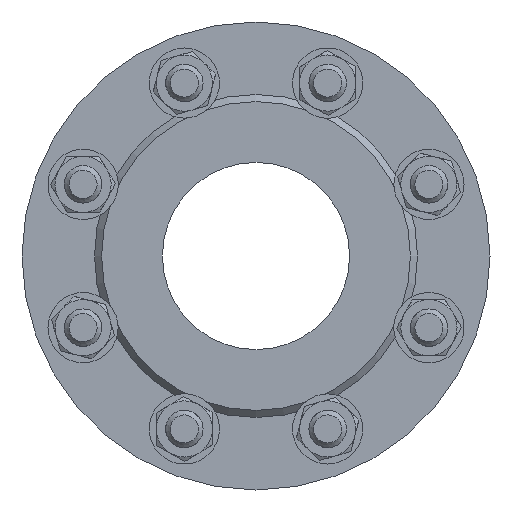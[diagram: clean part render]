
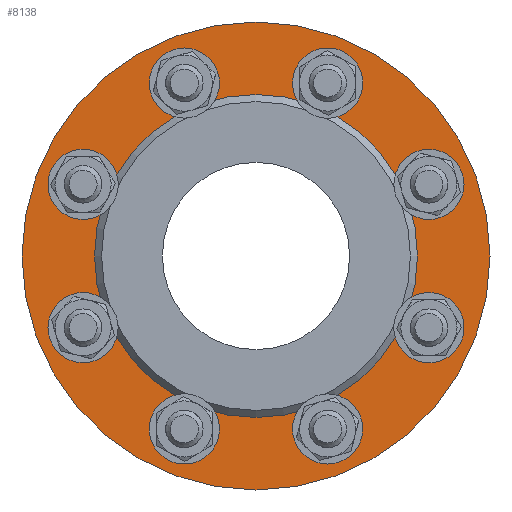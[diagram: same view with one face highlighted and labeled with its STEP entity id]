
A CAD part, left-side view. The second image highlights one B-rep face of the part: STEP entity #8138.
In plain terms, the highlighted planar face has unit normal (-1, 0, 0).
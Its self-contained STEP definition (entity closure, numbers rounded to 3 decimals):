
#44 = VERTEX_POINT ( 'NONE', #24504 ) ;
#139 = ORIENTED_EDGE ( 'NONE', *, *, #4912, .F. ) ;
#283 = CIRCLE ( 'NONE', #14516, 69. ) ;
#415 = FACE_BOUND ( 'NONE', #18114, .T. ) ;
#731 = ORIENTED_EDGE ( 'NONE', *, *, #898, .F. ) ;
#898 = EDGE_CURVE ( 'NONE', #24243, #24243, #5013, .T. ) ;
#938 = DIRECTION ( 'NONE',  ( 0., -1., 0. ) ) ;
#1148 = EDGE_LOOP ( 'NONE', ( #22468 ) ) ;
#1322 = DIRECTION ( 'NONE',  ( 0., 0., -1. ) ) ;
#1992 = AXIS2_PLACEMENT_3D ( 'NONE', #17154, #3802, #17296 ) ;
#2774 = CARTESIAN_POINT ( 'NONE',  ( -60., 30.615, 73.91 ) ) ;
#3012 = FACE_BOUND ( 'NONE', #6438, .T. ) ;
#3104 = VERTEX_POINT ( 'NONE', #18473 ) ;
#3328 = EDGE_CURVE ( 'NONE', #20354, #20354, #15756, .T. ) ;
#3461 = EDGE_CURVE ( 'NONE', #7401, #7401, #27286, .T. ) ;
#3508 = DIRECTION ( 'NONE',  ( -1., 0., 0. ) ) ;
#3576 = EDGE_LOOP ( 'NONE', ( #11178 ) ) ;
#3674 = VERTEX_POINT ( 'NONE', #16594 ) ;
#3802 = DIRECTION ( 'NONE',  ( -1., 0., 0. ) ) ;
#4476 = DIRECTION ( 'NONE',  ( 0., 0., -1. ) ) ;
#4798 = DIRECTION ( 'NONE',  ( 0., 0., -1. ) ) ;
#4912 = EDGE_CURVE ( 'NONE', #16169, #16169, #20852, .T. ) ;
#5013 = CIRCLE ( 'NONE', #6390, 8. ) ;
#5147 = FACE_BOUND ( 'NONE', #24184, .T. ) ;
#5528 = DIRECTION ( 'NONE',  ( -1., 0., 0. ) ) ;
#5651 = EDGE_CURVE ( 'NONE', #3104, #3104, #13574, .T. ) ;
#5699 = ORIENTED_EDGE ( 'NONE', *, *, #17414, .F. ) ;
#6390 = AXIS2_PLACEMENT_3D ( 'NONE', #7809, #16299, #20757 ) ;
#6438 = EDGE_LOOP ( 'NONE', ( #5699 ) ) ;
#7401 = VERTEX_POINT ( 'NONE', #27130 ) ;
#7450 = FACE_BOUND ( 'NONE', #1148, .T. ) ;
#7534 = EDGE_LOOP ( 'NONE', ( #20140 ) ) ;
#7809 = CARTESIAN_POINT ( 'NONE',  ( -60., -73.91, -30.615 ) ) ;
#8138 = ADVANCED_FACE ( 'NONE', ( #7450, #20109, #18236, #3012, #22854, #24877, #415, #9169, #5147, #18099 ), #9598, .F. ) ;
#8194 = DIRECTION ( 'NONE',  ( 0., 0., -1. ) ) ;
#8415 = CIRCLE ( 'NONE', #28195, 8. ) ;
#8521 = DIRECTION ( 'NONE',  ( -1., 0., 0. ) ) ;
#8617 = CARTESIAN_POINT ( 'NONE',  ( -60., -30.615, 73.91 ) ) ;
#9014 = EDGE_CURVE ( 'NONE', #3674, #3674, #23841, .T. ) ;
#9169 = FACE_BOUND ( 'NONE', #17276, .T. ) ;
#9258 = DIRECTION ( 'NONE',  ( 0., -1., 0. ) ) ;
#9598 = PLANE ( 'NONE',  #24266 ) ;
#10187 = AXIS2_PLACEMENT_3D ( 'NONE', #14439, #5528, #938 ) ;
#10661 = CARTESIAN_POINT ( 'NONE',  ( -60., -30.615, -73.91 ) ) ;
#10854 = EDGE_LOOP ( 'NONE', ( #15163 ) ) ;
#10962 = VERTEX_POINT ( 'NONE', #22053 ) ;
#11178 = ORIENTED_EDGE ( 'NONE', *, *, #5651, .F. ) ;
#11213 = VERTEX_POINT ( 'NONE', #13949 ) ;
#11398 = DIRECTION ( 'NONE',  ( -1., 0., 0. ) ) ;
#12304 = EDGE_CURVE ( 'NONE', #10962, #10962, #283, .T. ) ;
#13172 = EDGE_LOOP ( 'NONE', ( #139 ) ) ;
#13574 = CIRCLE ( 'NONE', #14473, 8. ) ;
#13629 = EDGE_CURVE ( 'NONE', #44, #44, #23918, .T. ) ;
#13949 = CARTESIAN_POINT ( 'NONE',  ( -60., 30.615, -81.91 ) ) ;
#14282 = CIRCLE ( 'NONE', #24405, 8. ) ;
#14439 = CARTESIAN_POINT ( 'NONE',  ( -60., 0., 0. ) ) ;
#14473 = AXIS2_PLACEMENT_3D ( 'NONE', #10661, #8521, #4476 ) ;
#14516 = AXIS2_PLACEMENT_3D ( 'NONE', #24386, #28432, #9258 ) ;
#15163 = ORIENTED_EDGE ( 'NONE', *, *, #13629, .T. ) ;
#15463 = ORIENTED_EDGE ( 'NONE', *, *, #3461, .F. ) ;
#15593 = CARTESIAN_POINT ( 'NONE',  ( -60., -73.91, -38.615 ) ) ;
#15756 = CIRCLE ( 'NONE', #1992, 8. ) ;
#15990 = VERTEX_POINT ( 'NONE', #18587 ) ;
#16169 = VERTEX_POINT ( 'NONE', #20774 ) ;
#16272 = DIRECTION ( 'NONE',  ( -1., 0., 0. ) ) ;
#16299 = DIRECTION ( 'NONE',  ( -1., 0., 0. ) ) ;
#16428 = DIRECTION ( 'NONE',  ( 0., 0., -1. ) ) ;
#16594 = CARTESIAN_POINT ( 'NONE',  ( -60., 73.91, -38.615 ) ) ;
#16968 = DIRECTION ( 'NONE',  ( -1., 0., 0. ) ) ;
#17154 = CARTESIAN_POINT ( 'NONE',  ( -60., 73.91, 30.615 ) ) ;
#17276 = EDGE_LOOP ( 'NONE', ( #15463 ) ) ;
#17296 = DIRECTION ( 'NONE',  ( 0., 0., -1. ) ) ;
#17414 = EDGE_CURVE ( 'NONE', #15990, #15990, #8415, .T. ) ;
#17946 = CARTESIAN_POINT ( 'NONE',  ( -60., 0., 100. ) ) ;
#18099 = FACE_OUTER_BOUND ( 'NONE', #10854, .T. ) ;
#18114 = EDGE_LOOP ( 'NONE', ( #731 ) ) ;
#18236 = FACE_BOUND ( 'NONE', #26678, .T. ) ;
#18473 = CARTESIAN_POINT ( 'NONE',  ( -60., -30.615, -81.91 ) ) ;
#18538 = AXIS2_PLACEMENT_3D ( 'NONE', #2774, #16272, #1322 ) ;
#18587 = CARTESIAN_POINT ( 'NONE',  ( -60., -73.91, 22.615 ) ) ;
#19267 = DIRECTION ( 'NONE',  ( -1., 0., 0. ) ) ;
#20109 = FACE_BOUND ( 'NONE', #3576, .T. ) ;
#20140 = ORIENTED_EDGE ( 'NONE', *, *, #3328, .F. ) ;
#20248 = DIRECTION ( 'NONE',  ( 0., 1., 0. ) ) ;
#20354 = VERTEX_POINT ( 'NONE', #24828 ) ;
#20757 = DIRECTION ( 'NONE',  ( 0., 0., -1. ) ) ;
#20774 = CARTESIAN_POINT ( 'NONE',  ( -60., -30.615, 65.91 ) ) ;
#20852 = CIRCLE ( 'NONE', #26355, 8. ) ;
#22053 = CARTESIAN_POINT ( 'NONE',  ( -60., -69., 0. ) ) ;
#22468 = ORIENTED_EDGE ( 'NONE', *, *, #25714, .F. ) ;
#22854 = FACE_BOUND ( 'NONE', #7534, .T. ) ;
#23415 = ORIENTED_EDGE ( 'NONE', *, *, #12304, .F. ) ;
#23732 = CARTESIAN_POINT ( 'NONE',  ( -60., -73.91, 30.615 ) ) ;
#23841 = CIRCLE ( 'NONE', #28447, 8. ) ;
#23918 = CIRCLE ( 'NONE', #10187, 100. ) ;
#24184 = EDGE_LOOP ( 'NONE', ( #23415 ) ) ;
#24243 = VERTEX_POINT ( 'NONE', #15593 ) ;
#24266 = AXIS2_PLACEMENT_3D ( 'NONE', #17946, #26738, #20248 ) ;
#24386 = CARTESIAN_POINT ( 'NONE',  ( -60., 0., 0. ) ) ;
#24405 = AXIS2_PLACEMENT_3D ( 'NONE', #27105, #11398, #4798 ) ;
#24504 = CARTESIAN_POINT ( 'NONE',  ( -60., -100., 0. ) ) ;
#24828 = CARTESIAN_POINT ( 'NONE',  ( -60., 73.91, 22.615 ) ) ;
#24877 = FACE_BOUND ( 'NONE', #13172, .T. ) ;
#25089 = CARTESIAN_POINT ( 'NONE',  ( -60., 73.91, -30.615 ) ) ;
#25714 = EDGE_CURVE ( 'NONE', #11213, #11213, #14282, .T. ) ;
#26042 = DIRECTION ( 'NONE',  ( 0., 0., -1. ) ) ;
#26355 = AXIS2_PLACEMENT_3D ( 'NONE', #8617, #16968, #26042 ) ;
#26678 = EDGE_LOOP ( 'NONE', ( #27442 ) ) ;
#26738 = DIRECTION ( 'NONE',  ( 1., 0., 0. ) ) ;
#27105 = CARTESIAN_POINT ( 'NONE',  ( -60., 30.615, -73.91 ) ) ;
#27130 = CARTESIAN_POINT ( 'NONE',  ( -60., 30.615, 65.91 ) ) ;
#27286 = CIRCLE ( 'NONE', #18538, 8. ) ;
#27442 = ORIENTED_EDGE ( 'NONE', *, *, #9014, .F. ) ;
#28195 = AXIS2_PLACEMENT_3D ( 'NONE', #23732, #19267, #8194 ) ;
#28432 = DIRECTION ( 'NONE',  ( -1., 0., 0. ) ) ;
#28447 = AXIS2_PLACEMENT_3D ( 'NONE', #25089, #3508, #16428 ) ;
